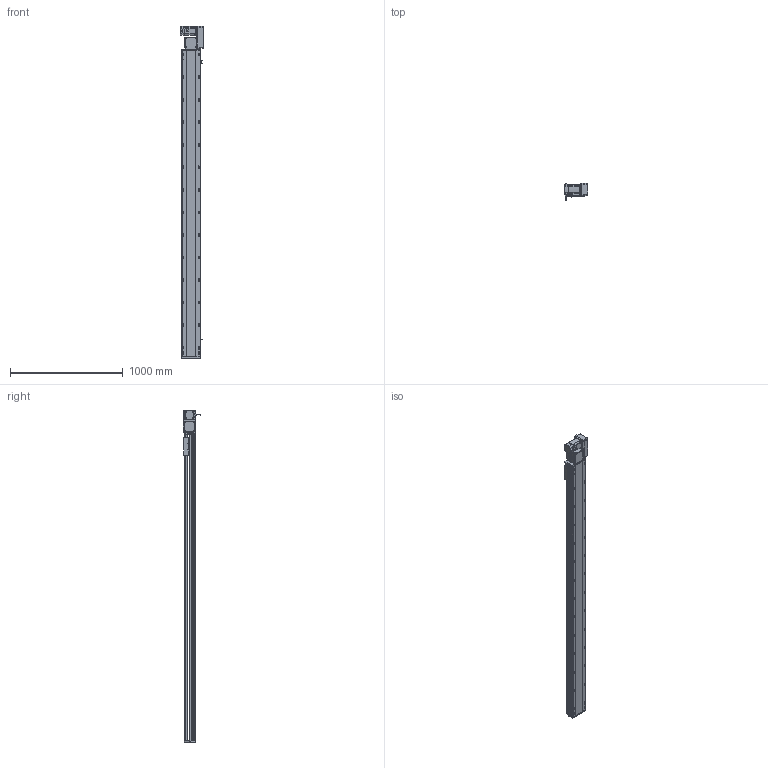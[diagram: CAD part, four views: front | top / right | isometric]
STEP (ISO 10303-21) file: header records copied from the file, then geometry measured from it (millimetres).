
FILE_DESCRIPTION (( 'STEP AP214' ), '1' );
FILE_NAME ('RTB17S-XX-2450-R-M75-C4.STEP', '2025-12-12T01:46:52', ( '' ), ( '' ), 'SwSTEP 2.0', 'SolidWorks 2018', '' );
FILE_SCHEMA (( 'AUTOMOTIVE_DESIGN' ));
Length unit declared in the file: millimetre
Products named in the file (15): RTB17S-L-001-耜醱啣^RTB17S-XX-XX-R-M75-C4; RTB17-R-011菁釱^RTB17S-XX-XX-R-M75-C4; 750W萇儂^RTB17S-XX-XX-R-M75-C4; EE672^RTB17S-XX-XX-R-M75-C4; RTB17S-R-々湍釱蚾饜-750W^RTB17S-XX-XX-R-M75-C4; RTB22S-GY-005P^RTB17S-R-々湍釱蚾饜-750W_RTB17S-XX-XX-R-M75-C4; RTB22S-GY-018P^RTB17S-R-々湍釱蚾饜-750W_RTB17S-XX-XX-R-M75-C4; RTB17S-XX-2450-R-M75-C4; RTB17S-賑釱^RTB17S-XX-XX-R-M75-C4; RTB22S-GY-017P^RTB17S-R-々湍釱蚾饜-750W_RTB17S-XX-XX-R-M75-C4; RTB17S-L-004-賑釱^RTB17S-賑釱_RTB17S-XX-XX-R-M75-C4; RTB22S-GY-008-M75--萇儂啣^RTB17S-R-々湍釱蚾饜-750W_RTB17S-XX-XX-R-M75-C4; RTB17S-L-014-T20-P75--々湍釱^RTB17S-R-々湍釱蚾饜-750W_RTB17S-XX-XX-R-M75-C4; RTB17S-L-007奻裔^RTB17S-XX-XX-R-M75-C4; RTH13-BL-012覜茼え俋离^RTB17S-賑釱_RTB17S-XX-XX-R-M75-C4
Assembly tree (17 placements, depth 3):
  RTB17S-XX-2450-R-M75-C4
    RTB17-R-011菁釱^RTB17S-XX-XX-R-M75-C4
    EE672^RTB17S-XX-XX-R-M75-C4  x3
    RTB17S-L-001-耜醱啣^RTB17S-XX-XX-R-M75-C4
    RTB17S-賑釱^RTB17S-XX-XX-R-M75-C4
      RTB17S-L-004-賑釱^RTB17S-賑釱_RTB17S-XX-XX-R-M75-C4
      RTH13-BL-012覜茼え俋离^RTB17S-賑釱_RTB17S-XX-XX-R-M75-C4
    RTB17S-L-007奻裔^RTB17S-XX-XX-R-M75-C4
    750W萇儂^RTB17S-XX-XX-R-M75-C4
    RTB17S-R-々湍釱蚾饜-750W^RTB17S-XX-XX-R-M75-C4
      RTB17S-L-014-T20-P75--々湍釱^RTB17S-R-々湍釱蚾饜-750W_RTB17S-XX-XX-R-M75-C4
      RTB22S-GY-005P^RTB17S-R-々湍釱蚾饜-750W_RTB17S-XX-XX-R-M75-C4
      RTB22S-GY-017P^RTB17S-R-々湍釱蚾饜-750W_RTB17S-XX-XX-R-M75-C4  x2
      RTB22S-GY-008-M75--萇儂啣^RTB17S-R-々湍釱蚾饜-750W_RTB17S-XX-XX-R-M75-C4
      RTB22S-GY-018P^RTB17S-R-々湍釱蚾饜-750W_RTB17S-XX-XX-R-M75-C4
Bounding box: 207.4 x 152.7 x 2949 mm (x, y, z)
Volume: 21260077.2 mm3; surface area: 3853795.1 mm2
Topology: 17 solids, 17 shells, 2217 faces, 6214 edges, 4022 vertices
Faces by surface type: plane 986, cylinder 815, bspline 294, cone 110, sphere 8, torus 4
Entity records: 64246 total; most frequent: CARTESIAN_POINT 19078, ORIENTED_EDGE 9272, DIRECTION 8582, EDGE_CURVE 4636, AXIS2_PLACEMENT_3D 3042, VERTEX_POINT 3026, VECTOR 2498, LINE 2498
